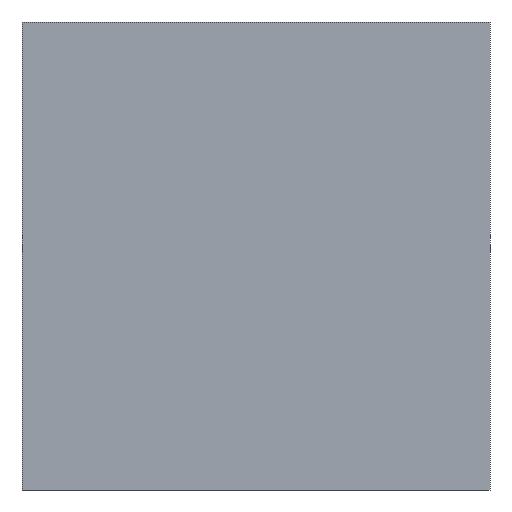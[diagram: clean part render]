
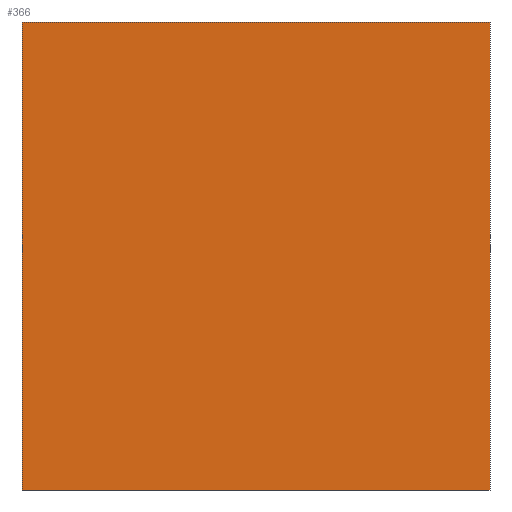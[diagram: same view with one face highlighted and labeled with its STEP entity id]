
A CAD part, left-side view. The second image highlights one B-rep face of the part: STEP entity #366.
In plain terms, the highlighted planar face has unit normal (-1, 0, 0).
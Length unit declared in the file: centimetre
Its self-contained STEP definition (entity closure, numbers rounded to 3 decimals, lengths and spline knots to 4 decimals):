
#4 = EDGE_LOOP ( 'NONE', ( #137, #265, #346, #350 ) ) ;
#24 = PLANE ( 'NONE',  #360 ) ;
#37 = VECTOR ( 'NONE', #95, 100. ) ;
#40 = LINE ( 'NONE', #252, #447 ) ;
#53 = DIRECTION ( 'NONE',  ( 0., 0., -1. ) ) ;
#60 = CARTESIAN_POINT ( 'NONE',  ( 0., 1000., 1000. ) ) ;
#63 = CARTESIAN_POINT ( 'NONE',  ( 0., 1000., 1000. ) ) ;
#67 = LINE ( 'NONE', #198, #37 ) ;
#76 = EDGE_CURVE ( 'NONE', #85, #424, #361, .T. ) ;
#85 = VERTEX_POINT ( 'NONE', #60 ) ;
#95 = DIRECTION ( 'NONE',  ( 0., -1., 0. ) ) ;
#97 = CARTESIAN_POINT ( 'NONE',  ( 0., 1000., 1000. ) ) ;
#118 = CARTESIAN_POINT ( 'NONE',  ( 0., 1000., 0. ) ) ;
#120 = VECTOR ( 'NONE', #246, 100. ) ;
#137 = ORIENTED_EDGE ( 'NONE', *, *, #337, .T. ) ;
#162 = LINE ( 'NONE', #305, #257 ) ;
#188 = CARTESIAN_POINT ( 'NONE',  ( 0., 0., 1000. ) ) ;
#198 = CARTESIAN_POINT ( 'NONE',  ( 0., 1000., 0. ) ) ;
#208 = DIRECTION ( 'NONE',  ( 1., 0., 0. ) ) ;
#240 = FACE_OUTER_BOUND ( 'NONE', #4, .T. ) ;
#246 = DIRECTION ( 'NONE',  ( 0., 0., -1. ) ) ;
#252 = CARTESIAN_POINT ( 'NONE',  ( 0., 1000., 1000. ) ) ;
#254 = CARTESIAN_POINT ( 'NONE',  ( 0., 0., 0. ) ) ;
#255 = VERTEX_POINT ( 'NONE', #254 ) ;
#257 = VECTOR ( 'NONE', #410, 100. ) ;
#260 = EDGE_CURVE ( 'NONE', #85, #269, #40, .T. ) ;
#265 = ORIENTED_EDGE ( 'NONE', *, *, #401, .F. ) ;
#269 = VERTEX_POINT ( 'NONE', #188 ) ;
#305 = CARTESIAN_POINT ( 'NONE',  ( 0., 0., 1000. ) ) ;
#337 = EDGE_CURVE ( 'NONE', #424, #255, #67, .T. ) ;
#346 = ORIENTED_EDGE ( 'NONE', *, *, #260, .F. ) ;
#350 = ORIENTED_EDGE ( 'NONE', *, *, #76, .T. ) ;
#360 = AXIS2_PLACEMENT_3D ( 'NONE', #63, #208, #53 ) ;
#361 = LINE ( 'NONE', #97, #120 ) ;
#366 = ADVANCED_FACE ( 'NONE', ( #240 ), #24, .F. ) ;
#401 = EDGE_CURVE ( 'NONE', #269, #255, #162, .T. ) ;
#410 = DIRECTION ( 'NONE',  ( 0., 0., -1. ) ) ;
#424 = VERTEX_POINT ( 'NONE', #118 ) ;
#447 = VECTOR ( 'NONE', #464, 100. ) ;
#464 = DIRECTION ( 'NONE',  ( 0., -1., 0. ) ) ;
